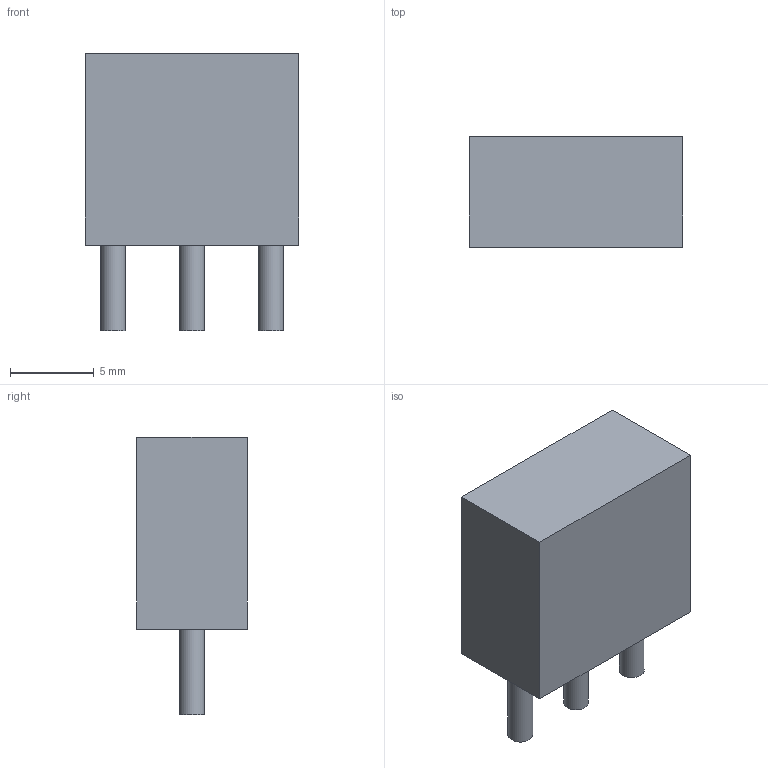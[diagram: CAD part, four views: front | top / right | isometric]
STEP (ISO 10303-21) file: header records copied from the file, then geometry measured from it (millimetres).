
FILE_DESCRIPTION(('FreeCAD Model'),'2;1');
FILE_NAME('/var/www/3D/0T/1127288.1.1.stp','2020-04-09T22:25:54',( 'Author'),(''),'Open CASCADE STEP processor 6.9','FreeCAD','Unknown' );
FILE_SCHEMA(('AUTOMOTIVE_DESIGN { 1 0 10303 214 1 1 1 1 }'));
Length unit declared in the file: millimetre
Products named in the file (3): ASSEMBLY; Body; Leads
Assembly tree (4 placements, depth 2):
  ASSEMBLY
    Body
    Leads  x3
Bounding box: 12.7 x 6.6 x 16.53 mm (x, y, z)
Volume: 1037 mm3; surface area: 853.2 mm2
Topology: 10 solids, 10 shells, 33 faces, 39 edges, 26 vertices
Faces by surface type: plane 24, cylinder 9
Full cylindrical faces by diameter (mm): 1.48 x9
Entity records: 690 total; most frequent: DIRECTION 109, CARTESIAN_POINT 97, LINE 51, VECTOR 51, ORIENTED_EDGE 42, PCURVE 42, DEFINITIONAL_REPRESENTATION 42, AXIS2_PLACEMENT_3D 26
